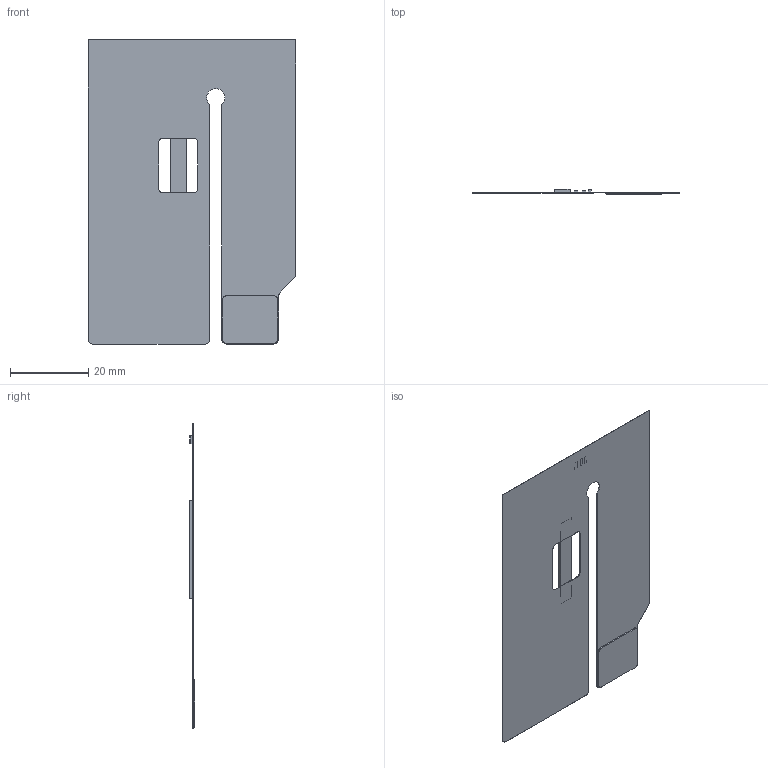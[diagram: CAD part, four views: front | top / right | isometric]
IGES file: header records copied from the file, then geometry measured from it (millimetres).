
Start section:  PTC IGES file: batt_fpc_prt.igs
Global section: file name: batt_fpc_prt.igs; native system: Pro/ENGINEER by Parametric Technology Corporation; preprocessor: 2000030; author: ECaille; organization: Unknown; date: 000803.091921; units: millimetre
Bounding box: 53 x 1.3 x 77.5 mm (x, y, z)
Surface area: 7655.8 mm2 (no closed solid volume)
Topology: 0 solids, 0 shells, 56 faces, 486 edges, 668 vertices
Faces by surface type: bspline 41, revolution 15
